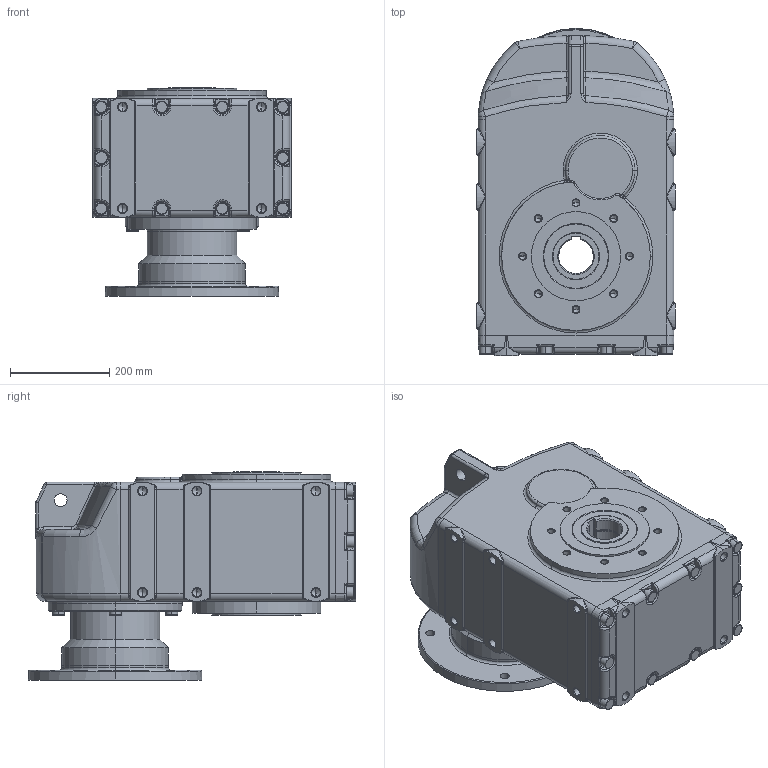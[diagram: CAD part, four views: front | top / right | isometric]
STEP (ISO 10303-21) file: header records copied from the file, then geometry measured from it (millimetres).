
FILE_DESCRIPTION (( 'STEP AP214' ), '1' );
FILE_NAME ('tnc62-f300-ap180.STEP', '2009-09-17T10:40:02', ( '' ), ( '' ), 'SwSTEP 2.0', 'SolidWorks 2003240', '' );
FILE_SCHEMA (( 'AUTOMOTIVE_DESIGN' ));
Length unit declared in the file: millimetre
Products named in the file (4): Priruba MTC82A_250-300-350; Skøíò TNC6_Skøíò TNC62 AP180; D6912_Šroub DIN 6912 - M16x40; tnc62-f300-ap180
Assembly tree (8 placements, depth 2):
  tnc62-f300-ap180
    D6912_Šroub DIN 6912 - M16x40  x6
    Priruba MTC82A_250-300-350
    Skøíò TNC6_Skøíò TNC62 AP180
Bounding box: 400 x 660 x 420 mm (x, y, z)
Volume: 62789604.8 mm3; surface area: 1488569.9 mm2
Topology: 8 solids, 8 shells, 1261 faces, 2843 edges, 1542 vertices
Faces by surface type: cylinder 429, plane 251, cone 222, bspline 176, torus 170, sphere 13
Entity records: 132722 total; most frequent: CARTESIAN_POINT 108604, DIRECTION 5088, ORIENTED_EDGE 4778, EDGE_CURVE 2389, AXIS2_PLACEMENT_3D 2122, VERTEX_POINT 1387, CIRCLE 1211, EDGE_LOOP 1170
